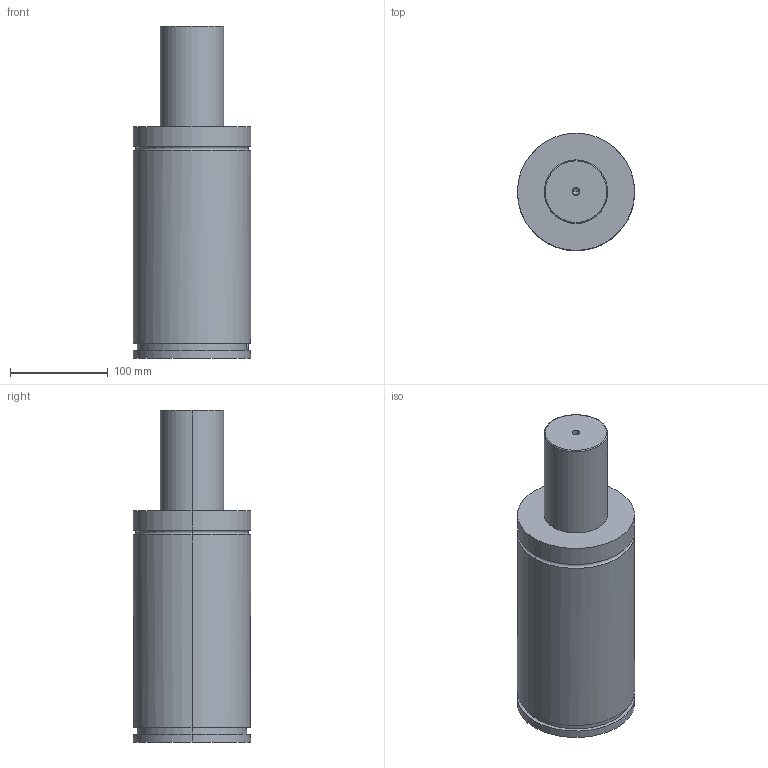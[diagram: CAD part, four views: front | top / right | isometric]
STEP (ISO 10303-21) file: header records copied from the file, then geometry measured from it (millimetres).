
FILE_DESCRIPTION(/* description */ (''),/* implementation_level */ '2;1');
FILE_NAME(/* name */ '3d_gse120-100_03865_r00.stp',/* time_stamp */ '2011-01-10T14:15:21+09:00',/* author */ ('MISUMI'),/* organization */ (''),/* preprocessor_version */ 'ST-DEVELOPER v11',/* originating_system */ 'UGS - NX 5.0',/* authorisation */ '');
FILE_SCHEMA (('CONFIG_CONTROL_DESIGN'));
Length unit declared in the file: millimetre
Products named in the file (1): 3d_gse120-100_03865_r00
Bounding box: 120 x 120 x 340 mm (x, y, z)
Volume: 3000721.2 mm3; surface area: 139936.2 mm2
Topology: 1 solids, 1 shells, 75 faces, 161 edges, 103 vertices
Faces by surface type: cylinder 34, plane 27, cone 10, torus 4
Entity records: 2145 total; most frequent: DIRECTION 393, CARTESIAN_POINT 360, ORIENTED_EDGE 318, AXIS2_PLACEMENT_3D 164, EDGE_CURVE 159, VERTEX_POINT 103, EDGE_LOOP 92, CIRCLE 88
